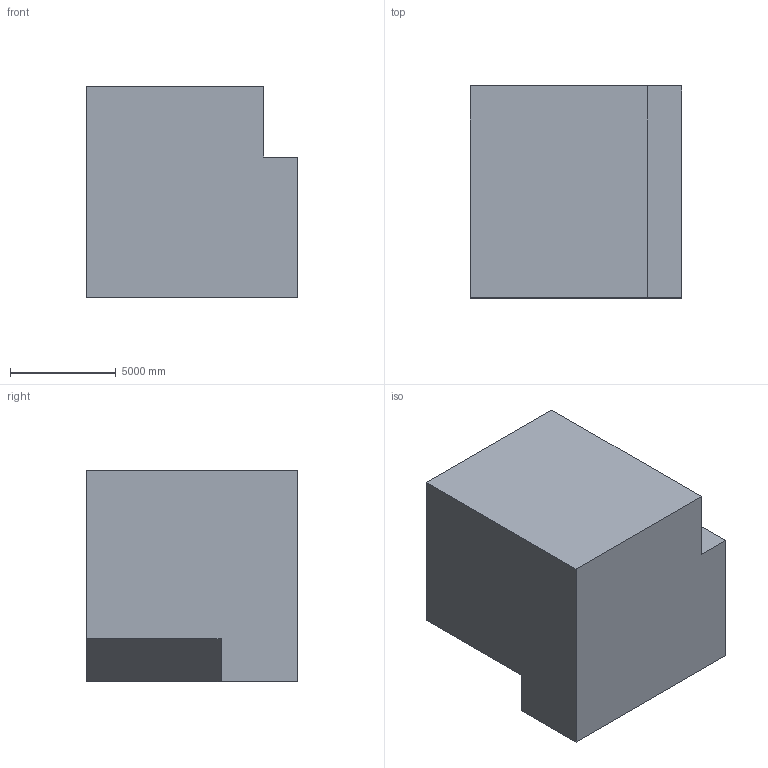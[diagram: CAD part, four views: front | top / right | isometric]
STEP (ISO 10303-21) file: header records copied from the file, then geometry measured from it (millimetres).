
FILE_DESCRIPTION (( 'STEP AP203' ), '1' );
FILE_NAME ('25.STEP', '2022-08-31T11:12:06', ( 'user' ), ( '' ), 'SwSTEP 2.0', 'SolidWorks 2021', '' );
FILE_SCHEMA (( 'CONFIG_CONTROL_DESIGN' ));
Length unit declared in the file: centimetre
Products named in the file (1): 25
Bounding box: 10000 x 10000 x 10000 mm (x, y, z)
Volume: 924675312015.5 mm3; surface area: 579891141.1 mm2
Topology: 1 solids, 1 shells, 10 faces, 24 edges, 16 vertices
Faces by surface type: plane 10
Entity records: 365 total; most frequent: CARTESIAN_POINT 51, ORIENTED_EDGE 48, DIRECTION 46, LINE 24, EDGE_CURVE 24, VECTOR 24, VERTEX_POINT 16, AXIS2_PLACEMENT_3D 11
